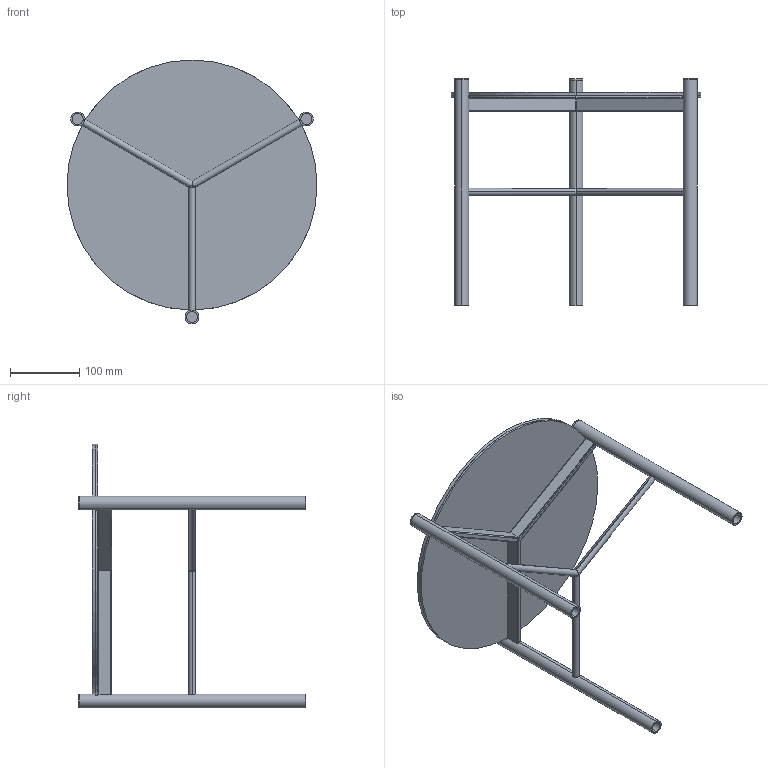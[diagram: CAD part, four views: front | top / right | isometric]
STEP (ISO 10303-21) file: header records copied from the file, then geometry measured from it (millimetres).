
FILE_DESCRIPTION (( 'STEP AP203' ), '1' );
FILE_NAME ('J401G.STEP', '2024-08-06T11:40:13', ( '' ), ( '' ), 'SwSTEP 2.0', 'SolidWorks 2022', '' );
FILE_SCHEMA (( 'CONFIG_CONTROL_DESIGN' ));
Length unit declared in the file: millimetre
Products named in the file (3): J401G; JXXXS00000000-00-jack metallo grezzo tutte le misure_J5B000001-JACK TAVOLINO D.36x31h<A macchina>; C1XCRMXX-00-piani Rotondi Cristallo_C15 D.36cm
Assembly tree (2 placements, depth 2):
  J401G
    JXXXS00000000-00-jack metallo grezzo tutte le misure_J5B000001-JACK TAVOLINO D.36x31h<A macchina>
    C1XCRMXX-00-piani Rotondi Cristallo_C15 D.36cm
Bounding box: 360 x 327 x 380.07 mm (x, y, z)
Volume: 968879.1 mm3; surface area: 614749.2 mm2
Topology: 14 solids, 14 shells, 125 faces, 293 edges, 194 vertices
Faces by surface type: cylinder 73, plane 52
Entity records: 4516 total; most frequent: CARTESIAN_POINT 1449, ORIENTED_EDGE 586, DIRECTION 541, EDGE_CURVE 293, AXIS2_PLACEMENT_3D 196, VERTEX_POINT 194, LINE 149, VECTOR 149
